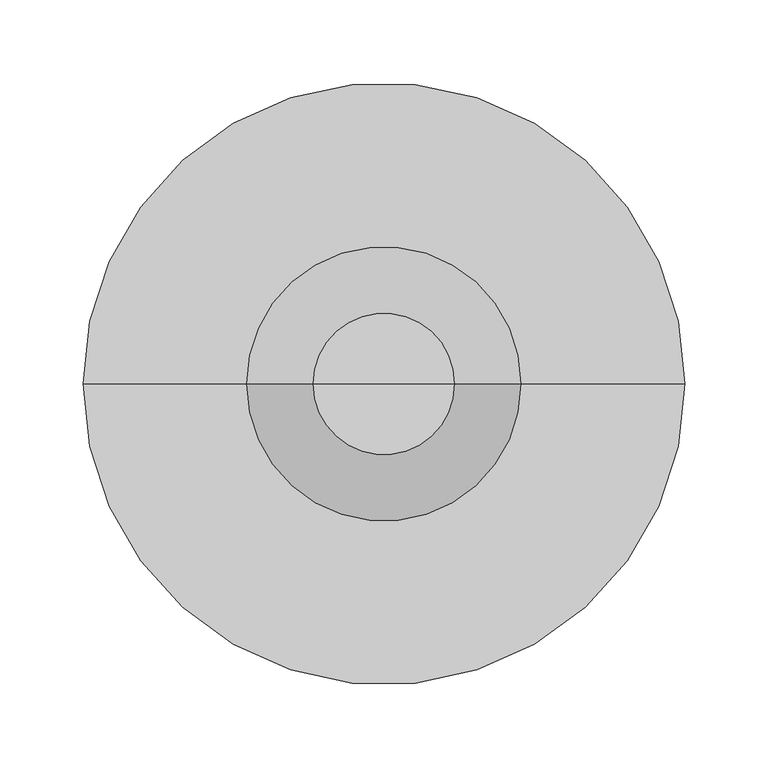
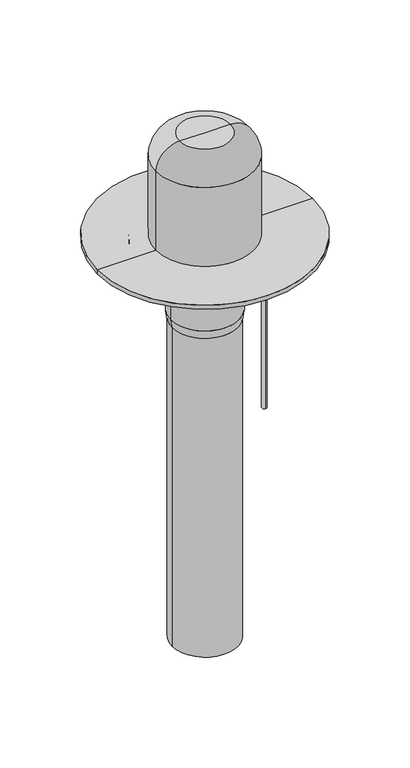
"""IFC4 building model written with IfcOpenShell, lengths in millimetres: flow terminal geometry, BIMLIB_Воронка_Кровельная_Fachmann_VO-PVC : 110х720."""

import ifcopenshell
import ifcopenshell.guid

model = None  # the IFC model being written
_history = None  # IfcOwnerHistory: only IFC2X3 demands one
_inside = {}  # id of a spatial element -> (the spatial element, [elements in it])
_under = {}  # id of a project, library or spatial element -> (it, [spatial elements below it])
_declared = {}  # id of a project -> (the project, [libraries it declares])
_typed = {}  # id of a type object -> (the type object, [elements of that type])
_made_of = {}  # id of a material, layer set ... -> (it, [elements and type objects made of it])


def new_model(schema):
    """Start an empty IFC model of exactly this schema.

    Asked for "IFC4X3", IfcOpenShell would pick the latest addendum, in which some entities
    have other attributes; the version numbers below select the first issue.
    IFC2X3 requires an IfcOwnerHistory on every rooted entity: one is made here for all.
    """
    global model, _history
    if schema == "IFC4X3":
        model = ifcopenshell.file(schema_version=(4, 3, 0, 0))
    else:
        model = ifcopenshell.file(schema=schema)
    _inside.clear()
    _under.clear()
    _declared.clear()
    _typed.clear()
    _made_of.clear()
    _history = None
    if model.schema == "IFC2X3":
        org = make("IfcOrganization", Name="unknown")
        user = make(
            "IfcPersonAndOrganization",
            ThePerson=make("IfcPerson", FamilyName="unknown"),
            TheOrganization=org,
        )
        app = make(
            "IfcApplication",
            ApplicationDeveloper=org,
            Version="unknown",
            ApplicationFullName="unknown",
            ApplicationIdentifier="unknown",
        )
        _history = make(
            "IfcOwnerHistory",
            OwningUser=user,
            OwningApplication=app,
            ChangeAction="ADDED",
            CreationDate=0,
        )
    return model


def make(cls, **values):
    """One entity of the class cls with the attributes given. An attribute that is None is left unset."""
    return model.create_entity(
        cls, **{name: value for name, value in values.items() if value is not None}
    )


def rooted(cls, **values):
    """An entity with a GlobalId (a new one), such as an element, a storey or a relation."""
    return make(cls, GlobalId=ifcopenshell.guid.new(), OwnerHistory=_history, **values)


def si_unit(unit_type, name, prefix=None):
    """IfcSIUnit, for example si_unit("LENGTHUNIT", "METRE", prefix="MILLI")."""
    return make("IfcSIUnit", UnitType=unit_type, Prefix=prefix, Name=name)


def assignment(units):
    """IfcUnitAssignment: the units of a project."""
    return None if units is None else make("IfcUnitAssignment", Units=units)


def point(xyz):
    """IfcCartesianPoint."""
    return None if xyz is None else make("IfcCartesianPoint", Coordinates=xyz)


def direction(xyz):
    """IfcDirection."""
    return None if xyz is None else make("IfcDirection", DirectionRatios=xyz)


def frame(location, z_axis=None, x_axis=None):
    """IfcAxis2Placement3D, a coordinate frame: its origin and axes. An axis left out is left unset."""
    return make(
        "IfcAxis2Placement3D",
        Location=point(location),
        Axis=direction(z_axis),
        RefDirection=direction(x_axis),
    )


def frame_2d(location, x_axis=None):
    """IfcAxis2Placement2D, a coordinate frame in the plane: its origin and x axis."""
    return make(
        "IfcAxis2Placement2D", Location=point(location), RefDirection=direction(x_axis)
    )


def origin():
    """The frame at (0, 0, 0) with its axes left unset."""
    return frame((0.0, 0.0, 0.0))


def origin_with_axes():
    """The frame at (0, 0, 0) with the z axis (0, 0, 1) and the x axis (1, 0, 0) written out."""
    return frame((0.0, 0.0, 0.0), z_axis=(0.0, 0.0, 1.0), x_axis=(1.0, 0.0, 0.0))


def place(relative_to, where):
    """IfcLocalPlacement: puts the frame where relative to a parent placement (None: the world)."""
    return make(
        "IfcLocalPlacement", PlacementRelTo=relative_to, RelativePlacement=where
    )


def context(
    kind, dimensions, precision=None, world=None, true_north=None, identifier=None
):
    """IfcGeometricRepresentationContext, for example the 3D "Model" context."""
    return make(
        "IfcGeometricRepresentationContext",
        ContextIdentifier=identifier,
        ContextType=kind,
        CoordinateSpaceDimension=dimensions,
        Precision=precision,
        WorldCoordinateSystem=world,
        TrueNorth=true_north,
    )


def project(units=None, contexts=None):
    """IfcProject with its units and contexts."""
    return rooted(
        "IfcProject",
        Name="project",
        RepresentationContexts=contexts,
        UnitsInContext=assignment(units),
    )


def spatial(cls, under=None, at=None, **own):
    """A site, building, storey or space (cls), placed at a placement, below another one or the project."""
    s = rooted(cls, ObjectPlacement=at, **own)
    if under is not None:
        _under.setdefault(under.id(), (under, []))[1].append(s)
    return s


def polyline(points):
    """IfcPolyline through the points."""
    return make("IfcPolyline", Points=[point(p) for p in points])


def circle_curve(where, radius):
    """IfcCircle in the frame where."""
    return make("IfcCircle", Position=where, Radius=radius)


def ellipse_curve(where, semi_axis1, semi_axis2):
    """IfcEllipse in the frame where."""
    return make(
        "IfcEllipse", Position=where, SemiAxis1=semi_axis1, SemiAxis2=semi_axis2
    )


def trimmed(basis, trim1, trim2, sense, master):
    """IfcTrimmedCurve: the piece of a basis curve between two trims."""
    return make(
        "IfcTrimmedCurve",
        BasisCurve=basis,
        Trim1=trim1,
        Trim2=trim2,
        SenseAgreement=sense,
        MasterRepresentation=master,
    )


def segment(curve, same_sense, transition):
    """IfcCompositeCurveSegment."""
    return make(
        "IfcCompositeCurveSegment",
        Transition=transition,
        SameSense=same_sense,
        ParentCurve=curve,
    )


def composite_curve(segments, self_intersect=None):
    """IfcCompositeCurve: segments joined end to end."""
    return make("IfcCompositeCurve", Segments=segments, SelfIntersect=self_intersect)


def outline(outer, holes=None, kind="AREA"):
    """IfcArbitraryClosedProfileDef: a profile drawn as a closed curve; with holes, ...WithVoids."""
    if holes is None:
        return make("IfcArbitraryClosedProfileDef", ProfileType=kind, OuterCurve=outer)
    return make(
        "IfcArbitraryProfileDefWithVoids",
        ProfileType=kind,
        OuterCurve=outer,
        InnerCurves=holes,
    )


def extrude(swept, where, along, depth):
    """IfcExtrudedAreaSolid: the profile swept, set in the frame where, extruded along a direction by depth."""
    return make(
        "IfcExtrudedAreaSolid",
        SweptArea=swept,
        Position=where,
        ExtrudedDirection=direction(along),
        Depth=depth,
    )


def shape(context_of_items, identifier, shape_type, items):
    """IfcShapeRepresentation: the items that make up one representation, for example the "Body"."""
    return make(
        "IfcShapeRepresentation",
        ContextOfItems=context_of_items,
        RepresentationIdentifier=identifier,
        RepresentationType=shape_type,
        Items=items,
    )


def source(mapping_origin, context_of_items, identifier, shape_type, items):
    """IfcRepresentationMap: a shape defined once, which mapped items show again and again."""
    return make(
        "IfcRepresentationMap",
        MappingOrigin=mapping_origin,
        MappedRepresentation=shape(context_of_items, identifier, shape_type, items),
    )


def transform(
    local_origin,
    x_axis=None,
    y_axis=None,
    z_axis=None,
    scale=None,
    scale2=None,
    scale3=None,
    uniform=True,
):
    """IfcCartesianTransformationOperator3D, or its non-uniform kind. x_axis, y_axis, z_axis: its Axis1, 2, 3."""
    if uniform:
        return make(
            "IfcCartesianTransformationOperator3D",
            Axis1=direction(x_axis),
            Axis2=direction(y_axis),
            LocalOrigin=point(local_origin),
            Scale=scale,
            Axis3=direction(z_axis),
        )
    return make(
        "IfcCartesianTransformationOperator3DnonUniform",
        Axis1=direction(x_axis),
        Axis2=direction(y_axis),
        LocalOrigin=point(local_origin),
        Scale=scale,
        Axis3=direction(z_axis),
        Scale2=scale2,
        Scale3=scale3,
    )


def mapped(mapping_source, mapping_target):
    """IfcMappedItem: shows the shape of a source again, moved by a transform."""
    return make(
        "IfcMappedItem", MappingSource=mapping_source, MappingTarget=mapping_target
    )


def made_of(thing, what):
    """Note that an element or type object is made of a material, layer set ...; save() writes the relation."""
    if what is not None:
        _made_of.setdefault(what.id(), (what, []))[1].append(thing)
    return thing


def element(
    cls,
    number,
    at=None,
    inside=None,
    cuts=None,
    type_object=None,
    material=None,
    context=None,
    identifier="Body",
    shape_type=None,
    held_by="IfcProductDefinitionShape",
    body=None,
    shapes=None,
    **own,
):
    """One element of the class cls, such as IfcWall. Its Tag is "e" and its number.

    at: its placement. inside: the storey or other place that contains it. cuts: it is an
    opening in that element (IfcRelVoidsElement). A single representation is given by context,
    identifier, shape_type and body (its items); several are given by shapes. held_by: the class
    of the entity that holds the representations. save() writes the other relations.
    """
    e = rooted(cls, Tag="e%d" % number, ObjectPlacement=at, **own)
    if body is not None:
        shapes = [shape(context, identifier, shape_type, body)]
    if shapes is not None:
        e.Representation = make(held_by, Representations=shapes)
    if inside is not None:
        _inside.setdefault(inside.id(), (inside, []))[1].append(e)
    if cuts is not None:
        rooted(
            "IfcRelVoidsElement", RelatingBuildingElement=cuts, RelatedOpeningElement=e
        )
    if type_object is not None:
        _typed.setdefault(type_object.id(), (type_object, []))[1].append(e)
    return made_of(e, material)


def aggregate(whole, parts):
    """IfcRelAggregates: a whole, such as a stair, and the parts it consists of."""
    return rooted("IfcRelAggregates", RelatingObject=whole, RelatedObjects=parts)


def save(model, path):
    """Write the relations noted so far, then the file.

    IfcRelAggregates (storeys below a building ...), IfcRelContainedInSpatialStructure (elements
    in a storey), IfcRelDefinesByType, IfcRelAssociatesMaterial and IfcRelDeclares: one each for
    every whole, place, type object, material and project.
    """
    for whole, parts in _under.values():
        aggregate(whole, parts)
    for where, things in _inside.values():
        rooted(
            "IfcRelContainedInSpatialStructure",
            RelatedElements=things,
            RelatingStructure=where,
        )
    for kind, things in _typed.values():
        rooted("IfcRelDefinesByType", RelatedObjects=things, RelatingType=kind)
    for what, things in _made_of.values():
        rooted("IfcRelAssociatesMaterial", RelatedObjects=things, RelatingMaterial=what)
    for by, libraries in _declared.values():
        rooted("IfcRelDeclares", RelatingContext=by, RelatedDefinitions=libraries)
    model.write(path)


def plane_surface(at):
    """IfcPlane: the flat surface through the origin of the frame at, square to its z axis."""
    return make("IfcPlane", Position=at)


def cylinder_surface(at, radius):
    """IfcCylindricalSurface: all points at the distance radius from the z axis of the frame at."""
    return make("IfcCylindricalSurface", Position=at, Radius=radius)


def revolved_surface(curve, axis_point, axis_direction):
    """IfcSurfaceOfRevolution: the curve turned about the line through axis_point along axis_direction."""
    return make(
        "IfcSurfaceOfRevolution",
        SweptCurve=make("IfcArbitraryOpenProfileDef", ProfileType="CURVE", Curve=curve),
        AxisPosition=make("IfcAxis1Placement", Location=point(axis_point), Axis=direction(axis_direction)),
    )


def advanced_brep(points, edges, surfaces, faces):
    """IfcAdvancedBrep: a solid bounded by faces that lie on surfaces and meet in shared edges.

    An edge is (start, end): straight between two places in points (the first is 0);
    or (start, end, curve); or (start, end, curve, False) where it runs against its curve.
    A face is (place in surfaces, loops), or (place, loops, False) where it looks against
    its surface's normal. A loop lists edges by number (the first is 1), with a minus sign
    where the edge is run from its end to its start. The first loop is the outer one.
    """
    corners = [point(p) for p in points]
    vertices = [make("IfcVertexPoint", VertexGeometry=c) for c in corners]
    made = []
    for start, end, *more in edges:
        made.append(
            make(
                "IfcEdgeCurve",
                EdgeStart=vertices[start],
                EdgeEnd=vertices[end],
                EdgeGeometry=more[0] if more else make("IfcPolyline", Points=[corners[start], corners[end]]),
                SameSense=more[1] if len(more) > 1 else True,
            )
        )
    hull = []
    for where, loops, *sense in faces:
        bounds = []
        for j, loop in enumerate(loops):
            ring = [make("IfcOrientedEdge", EdgeElement=made[abs(k) - 1], Orientation=k > 0) for k in loop]
            bounds.append(
                make(
                    "IfcFaceOuterBound" if j == 0 else "IfcFaceBound",
                    Bound=make("IfcEdgeLoop", EdgeList=ring),
                    Orientation=True,
                )
            )
        hull.append(make("IfcAdvancedFace", Bounds=bounds, FaceSurface=surfaces[where], SameSense=sense[0] if sense else True))
    return make("IfcAdvancedBrep", Outer=make("IfcClosedShell", CfsFaces=hull))


def flow_terminal_b9ce92b6(model_context):
    return source(origin(), model_context, "Body", "SolidModel", [
        extrude(outline(composite_curve([segment(trimmed(circle_curve(frame_2d((100.0, 0.0)), 4.0), [point((100.0, 4.0))], [point((100.0, -4.0))], False, "CARTESIAN"), True, "CONTINUOUS"), segment(trimmed(circle_curve(frame_2d((100.0, 0.0)), 4.0), [point((100.0, -4.0))], [point((100.0, 4.0))], False, "CARTESIAN"), True, "CONTINUOUS")], self_intersect=False)), frame((0.0, 0.0, -335.0), z_axis=(0.0, 0.0, 1.0), x_axis=(1.0, 0.0, 0.0)), (0.0, 0.0, 1.0), 300.0),
        advanced_brep(
        [(55.0, 0.0, -705.0), (-55.0, 0.0, -705.0), (-55.0, 0.0, -140.0), (55.0, 0.0, -140.0), (-57.5, 0.0, -125.0), (57.5, 0.0, -125.0), (-57.5, 0.0, -75.0), (57.5, 0.0, -75.0), (-82.5, 0.0, -35.0), (82.5, 0.0, -35.0), (-111.5, 0.0, -35.0), (111.5, 0.0, -35.0), (-111.5, 0.0, 0.0), (111.5, 0.0, 0.0), (0.0, 0.0, 0.0)],
        [
            (0, 1, circle_curve(frame((0.0, 0.0, -705.0), z_axis=(0.0, 0.0, -1.0), x_axis=(-1.0, 0.0, 0.0)), 55.0)),
            (1, 0, circle_curve(frame((0.0, 0.0, -705.0), z_axis=(0.0, 0.0, -1.0), x_axis=(-1.0, 0.0, 0.0)), 55.0)),
            (1, 2),
            (2, 3, circle_curve(frame((0.0, 0.0, -140.0), z_axis=(0.0, 0.0, -1.0), x_axis=(-1.0, 0.0, 0.0)), 55.0)),
            (3, 0),
            (3, 2, circle_curve(frame((0.0, 0.0, -140.0), z_axis=(0.0, 0.0, -1.0), x_axis=(-1.0, 0.0, 0.0)), 55.0)),
            (4, 5, circle_curve(frame((0.0, 0.0, -125.0), z_axis=(0.0, 0.0, -1.0), x_axis=(1.0, 0.0, 0.0)), 57.5)),
            (5, 3),
            (2, 4),
            (5, 4, circle_curve(frame((0.0, 0.0, -125.0), z_axis=(0.0, 0.0, -1.0), x_axis=(1.0, 0.0, 0.0)), 57.5)),
            (4, 6),
            (6, 7, circle_curve(frame((0.0, 0.0, -75.0), z_axis=(0.0, 0.0, -1.0), x_axis=(1.0, 0.0, 0.0)), 57.5)),
            (7, 5),
            (7, 6, circle_curve(frame((0.0, 0.0, -75.0), z_axis=(0.0, 0.0, -1.0), x_axis=(1.0, 0.0, 0.0)), 57.5)),
            (6, 8),
            (8, 9, circle_curve(frame((0.0, 0.0, -35.0), z_axis=(0.0, 0.0, -1.0), x_axis=(1.0, 0.0, 0.0)), 82.5)),
            (9, 7),
            (9, 8, circle_curve(frame((0.0, 0.0, -35.0), z_axis=(0.0, 0.0, -1.0), x_axis=(1.0, 0.0, 0.0)), 82.5)),
            (8, 10),
            (10, 11, circle_curve(frame((0.0, 0.0, -35.0), z_axis=(0.0, 0.0, -1.0), x_axis=(1.0, 0.0, 0.0)), 111.5)),
            (11, 9),
            (11, 10, circle_curve(frame((0.0, 0.0, -35.0), z_axis=(0.0, 0.0, -1.0), x_axis=(1.0, 0.0, 0.0)), 111.5)),
            (10, 12),
            (12, 13, circle_curve(frame((0.0, 0.0, 0.0), z_axis=(0.0, 0.0, -1.0), x_axis=(1.0, 0.0, 0.0)), 111.5)),
            (13, 11),
            (13, 12, circle_curve(frame((0.0, 0.0, 0.0), z_axis=(0.0, 0.0, -1.0), x_axis=(1.0, 0.0, 0.0)), 111.5)),
            (12, 14),
            (14, 13),
        ],
        [
            plane_surface(frame((-55.0, 0.0, -705.0), z_axis=(0.0, 0.0, -1.0), x_axis=(0.0, 1.0, 0.0))),
            cylinder_surface(frame((0.0, 0.0, -705.0), z_axis=(0.0, 0.0, 1.0), x_axis=(-1.0, 0.0, 0.0)), 55.0),
            revolved_surface(polyline([(55.0, 0.0, -140.0), (57.5, 0.0, -125.0)]), (0.0, 0.0, 267.0), (0.0, 0.0, 1.0)),
            cylinder_surface(frame((0.0, 0.0, 267.0), z_axis=(0.0, 0.0, 1.0), x_axis=(1.0, 0.0, 0.0)), 57.5),
            revolved_surface(polyline([(57.5, 0.0, -75.0), (82.5, 0.0, -35.0)]), (0.0, 0.0, 267.0), (0.0, 0.0, 1.0)),
            plane_surface(frame((0.0, 0.0, -35.0), z_axis=(0.0, 0.0, -1.0), x_axis=(1.0, 0.0, 0.0))),
            cylinder_surface(frame((0.0, 0.0, 267.0), z_axis=(0.0, 0.0, 1.0), x_axis=(1.0, 0.0, 0.0)), 111.5),
            plane_surface(origin_with_axes()),
        ],
        [
            (0, [[1, 2]]),
            (1, [[-2, 3, 4, 5]]),
            (1, [[-1, -5, 6, -3]]),
            (2, [[7, 8, -4, 9]]),
            (2, [[-8, 10, -9, -6]]),
            (3, [[-7, 11, 12, 13]]),
            (3, [[-10, -13, 14, -11]]),
            (4, [[-12, 15, 16, 17]]),
            (4, [[-14, -17, 18, -15]]),
            (5, [[-16, 19, 20, 21]]),
            (5, [[-18, -21, 22, -19]]),
            (6, [[-20, 23, 24, 25]]),
            (6, [[-22, -25, 26, -23]]),
            (7, [[-24, 27, 28]]),
            (7, [[-26, -28, -27]]),
        ],
    ),
        advanced_brep(
        [(0.0, 0.0, 187.0), (42.5, 0.0, 187.0), (-42.5, 0.0, 187.0), (-181.0, 0.0, 0.0), (181.0, 0.0, 0.0), (0.0, 0.0, 0.0), (-181.0, 0.0, 7.0), (181.0, 0.0, 7.0), (-82.5, 0.0, 7.0), (82.5, 0.0, 7.0), (-82.5, 0.0, 147.0), (82.5, 0.0, 147.0)],
        [
            (0, 1),
            (1, 2, circle_curve(frame((0.0, 0.0, 187.0), z_axis=(0.0, 0.0, 1.0), x_axis=(1.0, 0.0, 0.0)), 42.5)),
            (2, 0),
            (2, 1, circle_curve(frame((0.0, 0.0, 187.0), z_axis=(0.0, 0.0, 1.0), x_axis=(1.0, 0.0, 0.0)), 42.5)),
            (3, 4, circle_curve(frame((0.0, 0.0, 0.0), z_axis=(0.0, 0.0, -1.0), x_axis=(1.0, 0.0, 0.0)), 181.0)),
            (4, 5),
            (5, 3),
            (4, 3, circle_curve(frame((0.0, 0.0, 0.0), z_axis=(0.0, 0.0, -1.0), x_axis=(1.0, 0.0, 0.0)), 181.0)),
            (6, 7, circle_curve(frame((0.0, 0.0, 7.0), z_axis=(0.0, 0.0, -1.0), x_axis=(1.0, 0.0, 0.0)), 181.0)),
            (7, 4),
            (3, 6),
            (7, 6, circle_curve(frame((0.0, 0.0, 7.0), z_axis=(0.0, 0.0, -1.0), x_axis=(1.0, 0.0, 0.0)), 181.0)),
            (8, 9, circle_curve(frame((0.0, 0.0, 7.0), z_axis=(0.0, 0.0, -1.0), x_axis=(1.0, 0.0, 0.0)), 82.5)),
            (9, 7),
            (6, 8),
            (9, 8, circle_curve(frame((0.0, 0.0, 7.0), z_axis=(0.0, 0.0, -1.0), x_axis=(1.0, 0.0, 0.0)), 82.5)),
            (10, 11, circle_curve(frame((0.0, 0.0, 147.0), z_axis=(0.0, 0.0, -1.0), x_axis=(1.0, 0.0, 0.0)), 82.5)),
            (11, 9),
            (8, 10),
            (11, 10, circle_curve(frame((0.0, 0.0, 147.0), z_axis=(0.0, 0.0, -1.0), x_axis=(1.0, 0.0, 0.0)), 82.5)),
            (1, 11, circle_curve(frame((42.5, 0.0, 147.0), z_axis=(0.0, 1.0, 0.0), x_axis=(1.0, 0.0, 0.0)), 40.0)),
            (10, 2, circle_curve(frame((-42.5, 0.0, 147.0), z_axis=(0.0, 1.0, 0.0), x_axis=(-1.0, 0.0, 0.0)), 40.0)),
        ],
        [
            plane_surface(frame((0.0, 0.0, 187.0), z_axis=(0.0, 0.0, 1.0), x_axis=(1.0, 0.0, 0.0))),
            plane_surface(frame((0.0, 0.0, 0.0), z_axis=(0.0, 0.0, -1.0), x_axis=(1.0, 0.0, 0.0))),
            cylinder_surface(frame((0.0, 0.0, 337.0), z_axis=(0.0, 0.0, 1.0), x_axis=(1.0, 0.0, 0.0)), 181.0),
            plane_surface(frame((0.0, 0.0, 7.0), z_axis=(0.0, 0.0, 1.0), x_axis=(1.0, 0.0, 0.0))),
            cylinder_surface(frame((0.0, 0.0, 337.0), z_axis=(0.0, 0.0, 1.0), x_axis=(1.0, 0.0, 0.0)), 82.5),
            revolved_surface(trimmed(ellipse_curve(frame((42.5, 0.0, 147.0), z_axis=(0.0, -1.0, 0.0), x_axis=(1.0, 0.0, 0.0)), 40.0, 40.0), [point((82.5, 0.0, 147.0))], [point((42.5, 0.0, 187.0))], True, "CARTESIAN"), (0.0, 0.0, 337.0), (0.0, 0.0, 1.0)),
        ],
        [
            (0, [[1, 2, 3]]),
            (0, [[-3, 4, -1]]),
            (1, [[5, 6, 7]]),
            (1, [[8, -7, -6]]),
            (2, [[9, 10, -5, 11]]),
            (2, [[12, -11, -8, -10]]),
            (3, [[13, 14, -9, 15]]),
            (3, [[16, -15, -12, -14]]),
            (4, [[17, 18, -13, 19]]),
            (4, [[20, -19, -16, -18]]),
            (5, [[-2, 21, -17, 22]]),
            (5, [[-4, -22, -20, -21]]),
        ],
    ),
    ])


if __name__ == "__main__":
    model = new_model("IFC4")
    model_context = context("Model", 3, world=origin())
    ifc_project = project(units=[si_unit("LENGTHUNIT", "METRE", prefix="MILLI")], contexts=[model_context])
    site = spatial("IfcSite", under=ifc_project)
    building = spatial("IfcBuilding", under=site)
    placement = place(None, origin())
    flow_terminal_shape = flow_terminal_b9ce92b6(model_context)
    element("IfcFlowTerminal", 1, ObjectType="BIMLIB_Воронка_Кровельная_Fachmann_VO-PVC : 110х720", at=placement, inside=building, context=model_context, shape_type="MappedRepresentation", body=[
        mapped(flow_terminal_shape, transform((0.0, 0.0, 0.0), x_axis=(1.0, 0.0, 0.0), y_axis=(0.0, 1.0, 0.0), z_axis=(0.0, 0.0, 1.0))),
    ])
    save(model, "model.ifc")
